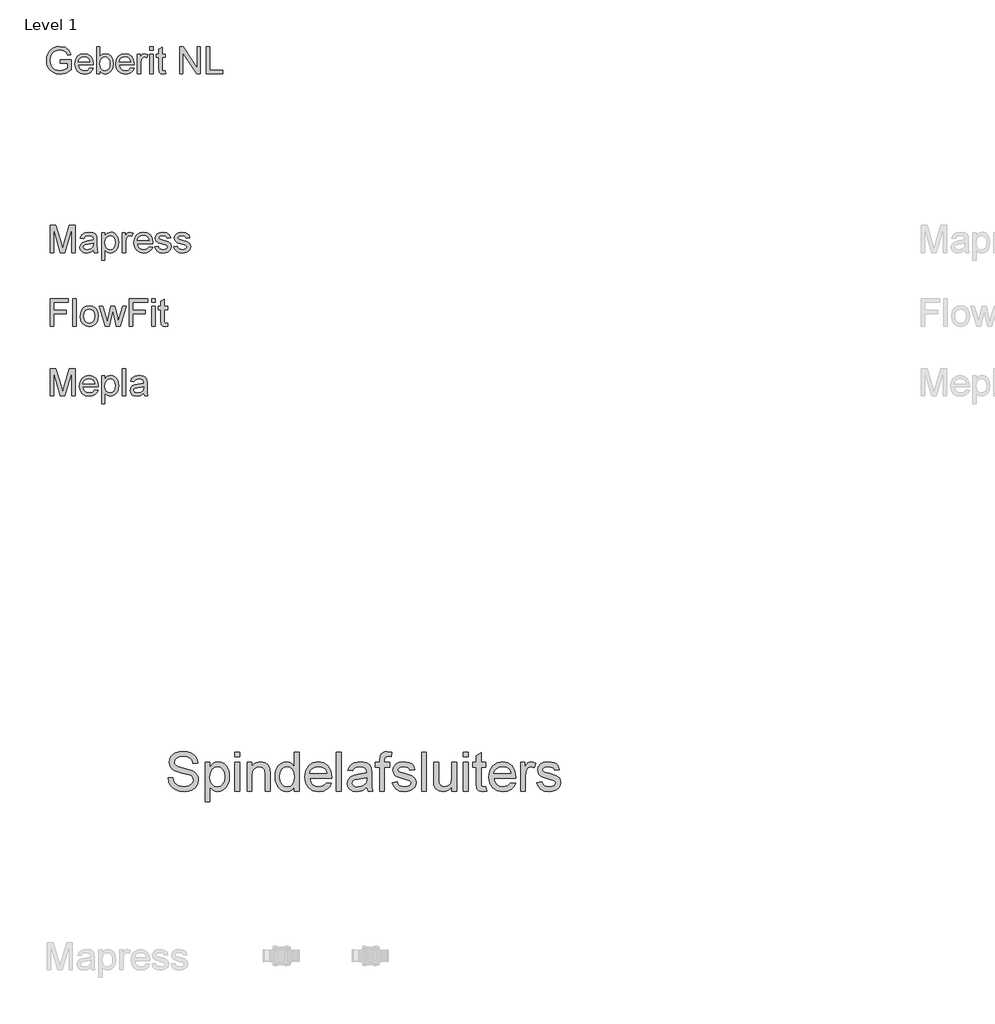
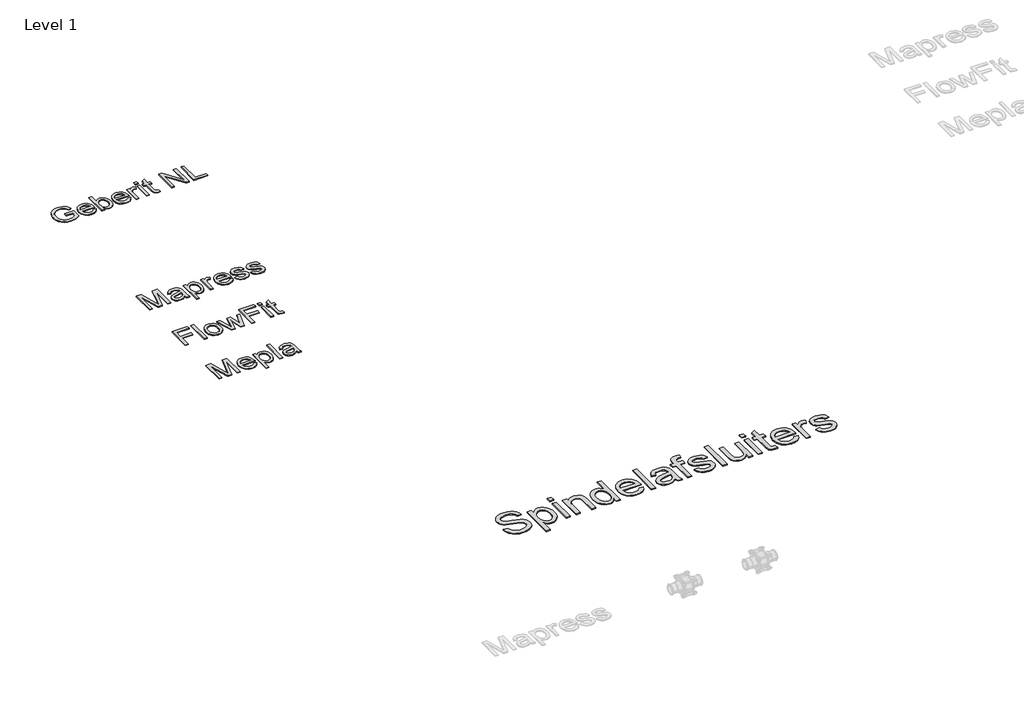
# One storey, part 2 of 4: 5 proxies.
"""IFC4 building model written with IfcOpenShell, lengths in millimetres."""

from ifc_helpers import new_model, si_unit, origin, origin_with_axes, place, context, project, spatial, polyline, outline, extrude, element, save

model = new_model("IFC4")

# Units and contexts
model_context = context("Model", 3, world=origin())
ifc_project = project(units=[si_unit("LENGTHUNIT", "METRE", prefix="MILLI")], contexts=[model_context])

# Site, building, storey
site = spatial("IfcSite", under=ifc_project)
building = spatial("IfcBuilding", under=site)
storey = spatial("IfcBuildingStorey", under=building, Name="Level 1", Elevation=0.0)

# Proxies
placement = place(None, origin())
element("IfcBuildingElementProxy", 1, Name="medium", ObjectType="medium", at=placement, inside=storey, context=model_context, shape_type="SweptSolid", body=[
    extrude(outline(polyline([(-1446.1966445, 3007.3330024), (-1421.082567, 3007.3330024), (-1412.9891631, 2982.1943994), (-1404.858971, 2973.3039179), (-1393.2216372, 2966.3018972), (-1378.9968667, 2961.7585546), (-1363.1043645, 2960.244107), (-1336.8621155, 2964.8303692), (-1319.9150183, 2977.4364589), (-1314.3477374, 2994.2854543), (-1318.5170667, 3009.9572273), (-1324.8691625, 3016.1560389), (-1335.5867913, 3021.3615692), (-1372.1542616, 3030.9510265), (-1411.5176351, 3043.336387), (-1424.0194916, 3051.7854102), (-1432.8793163, 3062.0247924), (-1438.1584229, 3073.8338044), (-1439.9181251, 3086.9917171), (-1437.74149, 3101.7008655), (-1431.2115846, 3115.4167326), (-1420.5000871, 3127.0418036), (-1405.778676, 3135.4785641), (-1388.1080775, 3140.6105179), (-1368.5490181, 3142.3211692), (-1347.3590151, 3140.5308101), (-1328.8177626, 3135.159733), (-1313.587448, 3126.3183024), (-1302.3302589, 3114.1168829), (-1295.205611, 3099.3157639), (-1292.3729196, 3082.675235), (-1317.4869971, 3082.675235), (-1322.0977848, 3097.660295), (-1331.7117676, 3108.4760256), (-1346.7336157, 3115.0243251), (-1367.5679994, 3117.2070916), (-1388.8928924, 3115.0488506), (-1403.5223331, 3108.5741275), (-1411.983619, 3099.0459838), (-1414.8040476, 3087.7274811), (-1412.8052221, 3078.0767101), (-1406.8087456, 3070.3144), (-1392.633026, 3063.373693), (-1365.8021658, 3056.2858332), (-1321.3620208, 3043.6797435), (-1307.0452798, 3034.5685328), (-1297.0572837, 3023.3236065), (-1291.1895658, 3010.0675919), (-1289.2336599, 2994.9231164), (-1291.4838714, 2979.4414158), (-1298.234506, 2964.8794202), (-1309.2096522, 2952.3469069), (-1324.1333985, 2942.9536533), (-1342.0799085, 2937.0859354), (-1362.1233459, 2935.1300295), (-1386.72852, 2937.2392196), (-1406.9804238, 2943.5667899), (-1423.1120493, 2954.1372659), (-1435.3563884, 2968.975173), (-1443.2168003, 2987.0504417), (-1446.1966445, 3007.3330024)])), origin_with_axes(), (0.0, 0.0, 1.0), 5.0),
    extrude(outline(polyline([(-1254.7018033, 2881.7626147), (-1254.7018033, 3085.8144947), (-1229.5877257, 3085.8144947), (-1229.5877257, 3061.1909265), (-1212.2236956, 3082.0130474), (-1201.5305923, 3087.2185777), (-1188.7773498, 3088.9537544), (-1171.7934643, 3086.5257332), (-1156.9432944, 3079.2416697), (-1144.8522395, 3067.5430223), (-1136.145699, 3051.8712493), (-1130.8849864, 3033.3667849), (-1129.1314156, 3013.1700634), (-1131.111847, 2991.6918862), (-1137.0531412, 2972.4823147), (-1146.7652259, 2956.5162361), (-1160.0580287, 2944.7685378), (-1175.5397293, 2937.5396566), (-1191.8185076, 2935.1300295), (-1203.3638709, 2936.7425789), (-1213.6706981, 2941.5802271), (-1229.5877257, 2957.8896623), (-1229.5877257, 2881.7626147), (-1254.7018033, 2881.7626147)]), holes=[polyline([(-1229.5877257, 3010.8646696), (-1226.8715304, 2988.3502915), (-1218.7229442, 2972.6049421), (-1206.6993343, 2963.3343158), (-1192.3580678, 2960.244107), (-1177.7838095, 2963.4446804), (-1165.4536313, 2973.0464005), (-1157.0475277, 2989.3680983), (-1154.2454931, 3012.728605), (-1156.9800826, 3035.1203558), (-1165.1838511, 3051.0864344), (-1177.1890669, 3060.6513662), (-1191.3279983, 3063.8396769), (-1205.5221119, 3060.4490311), (-1217.9871802, 3050.277094), (-1226.6875894, 3033.6426964), (-1229.5877257, 3010.8646696)])]), origin_with_axes(), (0.0, 0.0, 1.0), 5.0),
    extrude(outline(polyline([(-1100.8780784, 2938.2692892), (-1100.8780784, 3085.8144947), (-1075.7640008, 3085.8144947), (-1075.7640008, 2938.2692892), (-1100.8780784, 2938.2692892)])), origin_with_axes(), (0.0, 0.0, 1.0), 5.0),
    extrude(outline(polyline([(-1100.8780784, 3114.0678319), (-1100.8780784, 3139.1819095), (-1075.7640008, 3139.1819095), (-1075.7640008, 3114.0678319), (-1100.8780784, 3114.0678319)])), origin_with_axes(), (0.0, 0.0, 1.0), 5.0),
    extrude(outline(polyline([(-1038.0928845, 2938.2692892), (-1038.0928845, 3085.8144947), (-1012.978807, 3085.8144947), (-1012.978807, 3065.213103), (-1004.2538723, 3075.599638), (-993.7753668, 3083.0185915), (-981.5432905, 3087.4699637), (-967.5576433, 3088.9537544), (-943.8415174, 3084.1712885), (-927.6547096, 3071.6142497), (-920.1253914, 3053.1465735), (-918.8010162, 3028.8663619), (-918.8010162, 2938.2692892), (-943.9150938, 2938.2692892), (-943.9150938, 3025.4818475), (-946.8090988, 3047.70192), (-957.0362183, 3059.4496184), (-974.2776211, 3063.8396769), (-988.9867695, 3061.3748675), (-1001.5254142, 3053.9804394), (-1010.1154588, 3039.6943553), (-1012.978807, 3016.5545778), (-1012.978807, 2938.2692892), (-1038.0928845, 2938.2692892)])), origin_with_axes(), (0.0, 0.0, 1.0), 5.0),
    extrude(outline(polyline([(-793.2306285, 2938.2692892), (-793.2306285, 2961.9608897), (-800.7446183, 2950.2223883), (-809.846632, 2941.8377445), (-820.5366696, 2936.8069583), (-832.8147312, 2935.1300295), (-849.0505899, 2937.5580507), (-863.9130225, 2944.8421142), (-876.4945868, 2956.4733166), (-885.8878404, 2971.9427545), (-891.7371641, 2990.6250285), (-893.6869387, 3011.8947391), (-891.8904483, 3032.9008011), (-886.500977, 3051.8712493), (-877.5246564, 3067.7269633), (-864.9676176, 3079.3888225), (-849.7802226, 3086.5625214), (-832.9128331, 3088.9537544), (-820.6255744, 3087.2431031), (-809.7607929, 3082.1111493), (-793.2306285, 3064.3301862), (-793.2306285, 3139.1819095), (-768.116551, 3139.1819095), (-768.116551, 2938.2692892), (-793.2306285, 2938.2692892)]), holes=[polyline([(-868.5728611, 3011.992841), (-865.7401698, 2989.2761278), (-857.2420957, 2973.1199769), (-844.8935234, 2963.4630745), (-830.5093374, 2960.244107), (-816.1312827, 2963.3159217), (-804.0954101, 2972.5313657), (-795.9468239, 2988.0621172), (-793.2306285, 3010.0798546), (-795.9958749, 3034.1515999), (-804.2916139, 3050.8411797), (-816.6340548, 3060.5900526), (-831.539407, 3063.8396769), (-846.0707458, 3060.7188113), (-857.9778597, 3051.3562145), (-865.9241108, 3035.2736399), (-868.5728611, 3011.992841)])]), origin_with_axes(), (0.0, 0.0, 1.0), 5.0),
    extrude(outline(polyline([(-627.1441704, 2982.2189249), (-602.5206022, 2979.0796652), (-611.3926897, 2960.5261499), (-625.5500151, 2946.6569987), (-644.6737475, 2938.0117718), (-668.4450558, 2935.1300295), (-697.9124036, 2940.1025678), (-720.5861972, 2955.0201827), (-735.0439596, 2978.9141183), (-739.8632138, 3010.8156186), (-734.9949087, 3043.7901081), (-720.3899935, 3068.4504645), (-698.0227682, 3083.8279319), (-669.8675328, 3088.9537544), (-642.5890829, 3083.8401947), (-620.7920747, 3068.4995155), (-606.4998592, 3043.88821), (-601.7357873, 3010.9627714), (-601.8829401, 3004.1937427), (-714.7491362, 3004.1937427), (-710.4019973, 2985.3949728), (-700.3036366, 2971.5748725), (-685.7293782, 2963.0767984), (-667.9545464, 2960.244107), (-643.3309782, 2965.4925568), (-634.1829793, 2972.2983737), (-627.1441704, 2982.2189249)]), holes=[polyline([(-714.7491362, 3029.3078203), (-626.8498649, 3029.3078203), (-630.2466419, 3042.5760975), (-636.9053061, 3052.067453), (-651.5470095, 3060.8966209), (-669.9656347, 3063.8396769), (-686.8943378, 3061.4913635), (-700.8922477, 3054.4464233), (-710.6227265, 3043.4651457), (-714.7491362, 3029.3078203)])]), origin_with_axes(), (0.0, 0.0, 1.0), 5.0),
    extrude(outline(polyline([(-576.6217098, 2938.2692892), (-576.6217098, 3139.1819095), (-551.5076322, 3139.1819095), (-551.5076322, 2938.2692892), (-576.6217098, 2938.2692892)])), origin_with_axes(), (0.0, 0.0, 1.0), 5.0),
    extrude(outline(polyline([(-419.6587252, 2957.1048473), (-444.0125132, 2940.0841737), (-470.9169498, 2935.1300295), (-491.9046177, 2938.1098736), (-507.3863183, 2947.0494061), (-516.9328561, 2960.6242518), (-520.1150353, 2977.5100353), (-515.3080439, 2997.3756631), (-502.6774287, 3011.7966373), (-485.0926694, 3020.037194), (-463.3631062, 3023.8141158), (-419.805878, 3032.4470799), (-419.6587252, 3038.0388863), (-421.3877705, 3049.2470244), (-426.5749067, 3056.5801388), (-438.1754523, 3062.0247924), (-454.3377346, 3063.8396769), (-469.2982691, 3062.6317977), (-479.7461177, 3059.00816), (-486.8707657, 3052.3065763), (-491.8616981, 3041.864859), (-516.9757756, 3045.0041187), (-506.110994, 3069.5295851), (-496.8526305, 3077.7824045), (-484.2342781, 3083.9015083), (-451.100373, 3088.9537544), (-420.6642693, 3084.4901195), (-403.4719174, 3073.2819814), (-395.7709209, 3056.2367823), (-394.5446476, 3034.2619645), (-394.5446476, 3003.0165203), (-393.2693234, 2959.3857157), (-388.2661282, 2938.2692892), (-413.3802058, 2938.2692892), (-419.6587252, 2957.1048473)]), holes=[polyline([(-419.6587252, 3007.3330024), (-460.1747956, 2999.632006), (-481.7817314, 2995.5607786), (-491.5673925, 2988.9389027), (-495.0009578, 2979.2758689), (-493.130891, 2971.8078644), (-487.5206905, 2965.6887606), (-478.2929838, 2961.6052704), (-465.5703982, 2960.244107), (-452.0813917, 2961.7462918), (-440.162015, 2966.2528463), (-423.7790035, 2980.7964478), (-419.805878, 3000.2206172), (-419.6587252, 3007.3330024)])]), origin_with_axes(), (0.0, 0.0, 1.0), 5.0),
    extrude(outline(polyline([(-353.7342716, 2938.2692892), (-353.7342716, 3060.7004172), (-375.7090895, 3060.7004172), (-375.7090895, 3085.8144947), (-353.7342716, 3085.8144947), (-353.7342716, 3100.6769273), (-351.0855213, 3121.6216756), (-346.0332752, 3129.9725969), (-338.2341769, 3136.58221), (-327.3203444, 3140.8864294), (-312.9238956, 3142.3211692), (-290.0171101, 3139.5743169), (-293.69593, 3116.0298693), (-308.1659552, 3117.2070916), (-323.984881, 3113.0377624), (-327.4613658, 3107.0658113), (-328.6201941, 3097.4886167), (-328.6201941, 3085.8144947), (-300.3668569, 3085.8144947), (-300.3668569, 3060.7004172), (-328.6201941, 3060.7004172), (-328.6201941, 2938.2692892), (-353.7342716, 2938.2692892)])), origin_with_axes(), (0.0, 0.0, 1.0), 5.0),
    extrude(outline(polyline([(-287.8098181, 2982.2189249), (-262.6957406, 2985.3581846), (-258.7348777, 2974.6160303), (-251.0706695, 2966.7188301), (-239.6540649, 2961.8627878), (-224.4360131, 2960.244107), (-209.4019022, 2961.7278977), (-198.8314262, 2966.1792699), (-192.5774323, 2972.6294675), (-190.4927676, 2980.1097348), (-192.589695, 2986.5108815), (-198.8804771, 2991.3914493), (-224.7303187, 2998.5528855), (-262.5485878, 3010.8401441), (-272.119651, 3017.0144302), (-279.0542266, 3025.1875419), (-284.6705584, 3045.4455771), (-280.1578726, 3064.1585079), (-267.8460885, 3078.4568548), (-251.8800099, 3085.8880711), (-230.2730741, 3088.9537544), (-199.714343, 3084.0241357), (-188.2854757, 3078.2238629), (-180.2901736, 3070.682282), (-171.6572095, 3048.1433784), (-196.771287, 3045.0041187), (-199.9412035, 3052.9074502), (-206.2135916, 3058.8610072), (-228.3110367, 3063.8396769), (-242.732011, 3062.6501918), (-252.3459938, 3059.0817364), (-257.7538591, 3053.9313885), (-259.5564809, 3047.9962256), (-256.564374, 3040.6876366), (-247.1956458, 3035.1448812), (-225.5641845, 3029.7983296), (-188.7024086, 3017.9770548), (-171.5836331, 3004.5861502), (-166.9299258, 2994.7391754), (-165.3786901, 2982.7584851), (-167.199706, 2970.3731246), (-172.6627536, 2958.7235281), (-181.5593665, 2948.7232692), (-193.6810783, 2941.2859215), (-208.3227817, 2936.6690025), (-224.7793696, 2935.1300295), (-250.1019136, 2938.0976109), (-268.5818525, 2947.0003552), (-280.9181621, 2961.7401605), (-287.8098181, 2982.2189249)])), origin_with_axes(), (0.0, 0.0, 1.0), 5.0),
    extrude(outline(polyline([(-137.1253529, 2938.2692892), (-137.1253529, 3139.1819095), (-112.0112753, 3139.1819095), (-112.0112753, 2938.2692892), (-137.1253529, 2938.2692892)])), origin_with_axes(), (0.0, 0.0, 1.0), 5.0),
    extrude(outline(polyline([(19.8376317, 2938.2692892), (19.8376317, 2963.6286214), (10.7509465, 2951.1604874), (0.1682077, 2942.2546775), (-11.9105844, 2936.9111915), (-25.4854301, 2935.1300295), (-49.1034542, 2940.1332246), (-65.3883638, 2952.6902634), (-72.868631, 2971.182465), (-74.340159, 2994.530709), (-74.340159, 3085.8144947), (-49.2260815, 3085.8144947), (-49.2260815, 3006.3519838), (-47.7055026, 2980.7473969), (-44.0450767, 2972.2064032), (-37.7726887, 2965.713286), (-19.0597579, 2960.244107), (1.9095158, 2965.8359134), (10.2665685, 2972.4393952), (15.7664043, 2981.066228), (19.8376317, 3009.0497851), (19.8376317, 3085.8144947), (44.9517093, 3085.8144947), (44.9517093, 2938.2692892), (19.8376317, 2938.2692892)])), origin_with_axes(), (0.0, 0.0, 1.0), 5.0),
    extrude(outline(polyline([(79.4835659, 2938.2692892), (79.4835659, 3085.8144947), (104.5976434, 3085.8144947), (104.5976434, 2938.2692892), (79.4835659, 2938.2692892)])), origin_with_axes(), (0.0, 0.0, 1.0), 5.0),
    extrude(outline(polyline([(79.4835659, 3114.0678319), (79.4835659, 3139.1819095), (104.5976434, 3139.1819095), (104.5976434, 3114.0678319), (79.4835659, 3114.0678319)])), origin_with_axes(), (0.0, 0.0, 1.0), 5.0),
    extrude(outline(polyline([(195.6361745, 2959.2140374), (198.7754342, 2937.5335252), (179.988927, 2935.1300295), (158.9460768, 2939.2993588), (148.4491772, 2950.2377168), (145.4080194, 2978.7363087), (145.4080194, 3060.7004172), (126.5724613, 3060.7004172), (126.5724613, 3085.8144947), (145.4080194, 3085.8144947), (145.4080194, 3121.6707265), (170.522097, 3136.4350572), (170.522097, 3085.8144947), (195.6361745, 3085.8144947), (195.6361745, 3060.7004172), (170.522097, 3060.7004172), (170.522097, 2979.4720726), (171.8464721, 2966.5226264), (176.1384288, 2961.9363642), (184.6978165, 2960.244107), (195.6361745, 2959.2140374)])), origin_with_axes(), (0.0, 0.0, 1.0), 5.0),
    extrude(outline(polyline([(324.0515163, 2982.2189249), (348.6750845, 2979.0796652), (339.802997, 2960.5261499), (325.6456716, 2946.6569987), (306.5219392, 2938.0117718), (282.750631, 2935.1300295), (253.2832831, 2940.1025678), (230.6094895, 2955.0201827), (216.1517271, 2978.9141183), (211.332473, 3010.8156186), (216.200778, 3043.7901081), (230.8056932, 3068.4504645), (253.1729185, 3083.8279319), (281.3281539, 3088.9537544), (308.6066039, 3083.8401947), (330.4036121, 3068.4995155), (344.6958276, 3043.88821), (349.4598994, 3010.9627714), (349.3127466, 3004.1937427), (236.4465505, 3004.1937427), (240.7936894, 2985.3949728), (250.8920502, 2971.5748725), (265.4663085, 2963.0767984), (283.2411403, 2960.244107), (307.8647085, 2965.4925568), (317.0127074, 2972.2983737), (324.0515163, 2982.2189249)]), holes=[polyline([(236.4465505, 3029.3078203), (324.3458219, 3029.3078203), (320.9490448, 3042.5760975), (314.2903807, 3052.067453), (299.6486773, 3060.8966209), (281.230052, 3063.8396769), (264.3013489, 3061.4913635), (250.303439, 3054.4464233), (240.5729602, 3043.4651457), (236.4465505, 3029.3078203)])]), origin_with_axes(), (0.0, 0.0, 1.0), 5.0),
    extrude(outline(polyline([(374.573977, 2938.2692892), (374.573977, 3085.8144947), (396.5487948, 3085.8144947), (396.5487948, 3063.9868297), (412.1469914, 3084.0977121), (427.8432899, 3088.9537544), (440.3512777, 3087.0162426), (453.0554693, 3081.203707), (444.6677598, 3058.6893289), (427.009424, 3063.8396769), (412.809179, 3058.8855327), (403.7592819, 3045.1512715), (399.6880545, 3015.8188138), (399.6880545, 2938.2692892), (374.573977, 2938.2692892)])), origin_with_axes(), (0.0, 0.0, 1.0), 5.0),
    extrude(outline(polyline([(459.3339886, 2982.2189249), (484.4480662, 2985.3581846), (488.408929, 2974.6160303), (496.0731372, 2966.7188301), (507.4897418, 2961.8627878), (522.7077937, 2960.244107), (537.7419045, 2961.7278977), (548.3123805, 2966.1792699), (554.5663745, 2972.6294675), (556.6510391, 2980.1097348), (554.5541117, 2986.5108815), (548.2633296, 2991.3914493), (522.4134881, 2998.5528855), (484.595219, 3010.8401441), (475.0241557, 3017.0144302), (468.0895801, 3025.1875419), (462.4732483, 3045.4455771), (466.9859341, 3064.1585079), (479.2977182, 3078.4568548), (495.2637968, 3085.8880711), (516.8707327, 3088.9537544), (547.4294638, 3084.0241357), (558.8583311, 3078.2238629), (566.8536331, 3070.682282), (575.4865973, 3048.1433784), (550.3725197, 3045.0041187), (547.2026032, 3052.9074502), (540.9302152, 3058.8610072), (518.83277, 3063.8396769), (504.4117958, 3062.6501918), (494.797813, 3059.0817364), (489.3899476, 3053.9313885), (487.5873259, 3047.9962256), (490.5794328, 3040.6876366), (499.9481609, 3035.1448812), (521.5796222, 3029.7983296), (558.4413981, 3017.9770548), (575.5601737, 3004.5861502), (580.2138809, 2994.7391754), (581.7651166, 2982.7584851), (579.9441008, 2970.3731246), (574.4810531, 2958.7235281), (565.5844402, 2948.7232692), (553.4627285, 2941.2859215), (538.8210251, 2936.6690025), (522.3644371, 2935.1300295), (497.0418931, 2938.0976109), (478.5619543, 2947.0003552), (466.2256447, 2961.7401605), (459.3339886, 2982.2189249)])), origin_with_axes(), (0.0, 0.0, 1.0), 5.0),
])
element("IfcBuildingElementProxy", 2, Name="small", ObjectType="small", at=placement, inside=storey, context=model_context, shape_type="SweptSolid", body=[
    extrude(outline(polyline([(-2002.5257201, 6696.9325117), (-2002.5257201, 6714.1632809), (-1946.5257201, 6714.1632809), (-1946.5257201, 6662.6392425), (-1974.1723547, 6646.3844348), (-2003.4007201, 6640.9325117), (-2022.730648, 6643.0989781), (-2040.2012009, 6649.5983771), (-2054.714422, 6660.2035454), (-2065.1723547, 6674.6873194), (-2071.4950711, 6692.0611175), (-2073.6026432, 6711.3363579), (-2071.5034845, 6730.7504204), (-2065.2060086, 6748.8099156), (-2054.9710326, 6763.9583531), (-2041.0593739, 6774.6392425), (-2024.1146624, 6780.974579), (-2004.7805278, 6783.0863579), (-1977.823797, 6778.1897233), (-1958.9271624, 6764.5599156), (-1948.511297, 6741.7594348), (-1964.3959124, 6737.2834733), (-1972.2540855, 6753.2185694), (-1985.6819701, 6762.4060694), (-2005.0497586, 6765.8555886), (-2027.1098547, 6762.1368386), (-2042.1194701, 6752.3772233), (-2050.9872586, 6739.1007809), (-2056.3718739, 6712.0430886), (-2054.7522826, 6695.5653242), (-2049.8935086, 6682.0070309), (-2041.9427874, 6671.4649636), (-2031.0473547, 6664.0358771), (-2004.7805278, 6658.1632809), (-1981.2060086, 6662.5887617), (-1963.7564893, 6672.0286656), (-1963.7564893, 6696.9325117), (-2002.5257201, 6696.9325117)])), origin_with_axes(), (0.0, 0.0, 1.0), 5.0),
    extrude(outline(polyline([(-1849.8045662, 6673.240204), (-1832.9103355, 6671.0863579), (-1838.9974749, 6658.3567906), (-1848.7108162, 6648.8411656), (-1861.8316095, 6642.9096752), (-1878.1411047, 6640.9325117), (-1898.3586528, 6644.3441704), (-1913.9151432, 6654.5791463), (-1923.8346143, 6670.9727761), (-1927.1411047, 6692.8603963), (-1923.8009605, 6715.4841944), (-1913.7805278, 6732.4036656), (-1898.4343739, 6742.9541463), (-1879.1170662, 6746.4709733), (-1860.4013211, 6742.9625598), (-1845.4463932, 6732.4373194), (-1835.6405037, 6715.5515021), (-1832.3718739, 6692.9613579), (-1832.4728355, 6688.3171271), (-1909.9103355, 6688.3171271), (-1906.9277634, 6675.4192906), (-1899.9992778, 6665.9373194), (-1889.9998787, 6660.1067906), (-1877.8045662, 6658.1632809), (-1860.9103355, 6661.7642425), (-1849.8045662, 6673.240204)]), holes=[polyline([(-1909.9103355, 6705.5478963), (-1849.6026432, 6705.5478963), (-1856.5016816, 6721.1632809), (-1866.5473547, 6727.2209733), (-1879.1843739, 6729.240204), (-1890.7991576, 6727.6290261), (-1900.4031239, 6722.7954925), (-1907.0792057, 6715.2612377), (-1909.9103355, 6705.5478963)])]), origin_with_axes(), (0.0, 0.0, 1.0), 5.0),
    extrude(outline(polyline([(-1797.9103355, 6643.0863579), (-1815.1411047, 6643.0863579), (-1815.1411047, 6780.9325117), (-1797.9103355, 6780.9325117), (-1797.9103355, 6729.8123194), (-1785.8454316, 6742.3063098), (-1770.8526432, 6746.4709733), (-1753.5882201, 6742.7185694), (-1740.1939893, 6732.1680886), (-1731.9656239, 6715.7618386), (-1728.9872586, 6695.2161656), (-1732.0707922, 6672.2137617), (-1741.3213932, 6655.1007809), (-1754.8965134, 6644.474579), (-1770.9536047, 6640.9325117), (-1786.2745182, 6645.5010213), (-1797.9103355, 6659.2065502), (-1797.9103355, 6643.0863579)]), holes=[polyline([(-1797.9103355, 6694.4084733), (-1796.7324509, 6680.0382809), (-1793.198797, 6670.3123194), (-1784.1711528, 6661.2005406), (-1772.4343739, 6658.1632809), (-1762.4896624, 6660.4012617), (-1753.9920662, 6667.115204), (-1748.1615374, 6678.2630406), (-1746.2180278, 6693.802704), (-1748.0816095, 6709.5695309), (-1753.6723547, 6720.5911656), (-1761.9049268, 6727.0779444), (-1771.6939893, 6729.240204), (-1781.6387009, 6727.0022233), (-1790.136297, 6720.2882809), (-1795.9668259, 6709.3423675), (-1797.9103355, 6694.4084733)])]), origin_with_axes(), (0.0, 0.0, 1.0), 5.0),
    extrude(outline(polyline([(-1638.7276432, 6673.240204), (-1621.8334124, 6671.0863579), (-1627.9205518, 6658.3567906), (-1637.6338932, 6648.8411656), (-1650.7546864, 6642.9096752), (-1667.0641816, 6640.9325117), (-1687.2817297, 6644.3441704), (-1702.8382201, 6654.5791463), (-1712.7576912, 6670.9727761), (-1716.0641816, 6692.8603963), (-1712.7240374, 6715.4841944), (-1702.7036047, 6732.4036656), (-1687.3574509, 6742.9541463), (-1668.0401432, 6746.4709733), (-1649.324398, 6742.9625598), (-1634.3694701, 6732.4373194), (-1624.5635807, 6715.5515021), (-1621.2949509, 6692.9613579), (-1621.3959124, 6688.3171271), (-1698.8334124, 6688.3171271), (-1695.8508403, 6675.4192906), (-1688.9223547, 6665.9373194), (-1678.9229557, 6660.1067906), (-1666.7276432, 6658.1632809), (-1649.8334124, 6661.7642425), (-1638.7276432, 6673.240204)]), holes=[polyline([(-1698.8334124, 6705.5478963), (-1638.5257201, 6705.5478963), (-1645.4247586, 6721.1632809), (-1655.4704316, 6727.2209733), (-1668.1074509, 6729.240204), (-1679.7222345, 6727.6290261), (-1689.3262009, 6722.7954925), (-1696.0022826, 6715.2612377), (-1698.8334124, 6705.5478963)])]), origin_with_axes(), (0.0, 0.0, 1.0), 5.0),
    extrude(outline(polyline([(-1604.0641816, 6643.0863579), (-1604.0641816, 6744.3171271), (-1588.9872586, 6744.3171271), (-1588.9872586, 6729.3411656), (-1578.2853355, 6743.1392425), (-1567.5161047, 6746.4709733), (-1550.2180278, 6741.1536656), (-1555.9728355, 6725.7065502), (-1568.0882201, 6729.240204), (-1577.8310086, 6725.8411656), (-1584.0401432, 6716.4180886), (-1586.8334124, 6696.2930886), (-1586.8334124, 6643.0863579), (-1604.0641816, 6643.0863579)])), origin_with_axes(), (0.0, 0.0, 1.0), 5.0),
    extrude(outline(polyline([(-1539.448797, 6643.0863579), (-1539.448797, 6744.3171271), (-1522.2180278, 6744.3171271), (-1522.2180278, 6643.0863579), (-1539.448797, 6643.0863579)])), origin_with_axes(), (0.0, 0.0, 1.0), 5.0),
    extrude(outline(polyline([(-1539.448797, 6763.7017425), (-1539.448797, 6780.9325117), (-1522.2180278, 6780.9325117), (-1522.2180278, 6763.7017425), (-1539.448797, 6763.7017425)])), origin_with_axes(), (0.0, 0.0, 1.0), 5.0),
    extrude(outline(polyline([(-1459.7564893, 6657.4565502), (-1457.6026432, 6642.5815502), (-1470.4920662, 6640.9325117), (-1484.9295662, 6643.7930886), (-1492.1314893, 6651.2978963), (-1494.2180278, 6670.8507809), (-1494.2180278, 6727.0863579), (-1507.1411047, 6727.0863579), (-1507.1411047, 6744.3171271), (-1494.2180278, 6744.3171271), (-1494.2180278, 6768.9180886), (-1476.9872586, 6779.0478963), (-1476.9872586, 6744.3171271), (-1459.7564893, 6744.3171271), (-1459.7564893, 6727.0863579), (-1476.9872586, 6727.0863579), (-1476.9872586, 6671.3555886), (-1476.0786047, 6662.4709733), (-1473.1338932, 6659.3243386), (-1467.261297, 6658.1632809), (-1459.7564893, 6657.4565502)])), origin_with_axes(), (0.0, 0.0, 1.0), 5.0),
    extrude(outline(polyline([(-1386.5257201, 6643.0863579), (-1386.5257201, 6780.9325117), (-1368.0834124, 6780.9325117), (-1296.0641816, 6671.7257809), (-1296.0641816, 6780.9325117), (-1278.8334124, 6780.9325117), (-1278.8334124, 6643.0863579), (-1297.2757201, 6643.0863579), (-1369.2949509, 6752.3267425), (-1369.2949509, 6643.0863579), (-1386.5257201, 6643.0863579)])), origin_with_axes(), (0.0, 0.0, 1.0), 5.0),
    extrude(outline(polyline([(-1248.6795662, 6643.0863579), (-1248.6795662, 6780.9325117), (-1231.448797, 6780.9325117), (-1231.448797, 6660.3171271), (-1162.5257201, 6660.3171271), (-1162.5257201, 6643.0863579), (-1248.6795662, 6643.0863579)])), origin_with_axes(), (0.0, 0.0, 1.0), 5.0),
])
element("IfcBuildingElementProxy", 3, Name="small", ObjectType="small", at=placement, inside=storey, context=model_context, shape_type="SweptSolid", body=[
    extrude(outline(polyline([(-2055.2064463, 5718.9619491), (-2055.2064463, 5859.6007833), (-2024.9567361, 5859.6007833), (-1996.183459, 5760.4737534), (-1990.3807336, 5739.7693547), (-1984.0973091, 5762.1905361), (-1955.8047312, 5859.6007833), (-1925.555021, 5859.6007833), (-1925.555021, 5718.9619491), (-1943.1348752, 5718.9619491), (-1943.1348752, 5842.020929), (-1978.4662621, 5718.9619491), (-2002.2952052, 5718.9619491), (-2037.626592, 5842.020929), (-2037.626592, 5718.9619491), (-2055.2064463, 5718.9619491)])), origin_with_axes(), (0.0, 0.0, 1.0), 5.0),
    extrude(outline(polyline([(-1831.0633042, 5732.1468398), (-1848.1109559, 5720.2323682), (-1866.9440615, 5716.7644673), (-1881.635429, 5718.8503582), (-1892.4726194, 5725.1080309), (-1899.1551959, 5734.6104229), (-1901.3827213, 5746.4304714), (-1898.0178274, 5760.3364108), (-1889.1763967, 5770.4310927), (-1876.8670652, 5776.1994824), (-1861.656371, 5778.8433277), (-1831.1663112, 5784.8864026), (-1831.0633042, 5788.800667), (-1832.273636, 5796.6463637), (-1835.9046313, 5801.7795438), (-1844.0250132, 5805.5908013), (-1855.3386108, 5806.8612205), (-1873.124479, 5803.4791586), (-1881.6053853, 5791.478848), (-1899.1852396, 5793.6763297), (-1891.5798924, 5810.8441562), (-1876.2661913, 5820.9045025), (-1853.0724577, 5824.4410747), (-1831.7671851, 5821.3165303), (-1819.7325388, 5813.4708336), (-1814.3418413, 5801.5391943), (-1813.48345, 5786.1568218), (-1813.48345, 5764.2850109), (-1812.590723, 5733.7434476), (-1809.0884864, 5718.9619491), (-1826.6683407, 5718.9619491), (-1831.0633042, 5732.1468398)]), holes=[polyline([(-1831.0633042, 5767.3065483), (-1859.4245535, 5761.9158508), (-1874.5494086, 5759.0659916), (-1881.3993714, 5754.4306785), (-1883.8028671, 5747.6665549), (-1878.56668, 5738.155579), (-1863.2014753, 5734.3443216), (-1845.4156071, 5738.550439), (-1833.9474991, 5748.7309601), (-1831.1663112, 5762.3278787), (-1831.0633042, 5767.3065483)])]), origin_with_axes(), (0.0, 0.0, 1.0), 5.0),
    extrude(outline(polyline([(-1789.3111503, 5679.407277), (-1789.3111503, 5822.2435929), (-1771.7312961, 5822.2435929), (-1771.7312961, 5805.0070952), (-1759.5764749, 5819.5825798), (-1743.1640329, 5824.4410747), (-1731.275313, 5822.7414599), (-1720.8801941, 5817.6426155), (-1712.4164557, 5809.4535622), (-1706.3218773, 5798.4833211), (-1701.4118789, 5771.392491), (-1706.9570869, 5742.911067), (-1713.7555462, 5731.7348119), (-1723.0605081, 5723.5114231), (-1733.8976985, 5718.4512062), (-1745.2928433, 5716.7644673), (-1760.5893767, 5721.2796056), (-1771.7312961, 5732.6962102), (-1771.7312961, 5679.407277), (-1789.3111503, 5679.407277)]), holes=[polyline([(-1771.7312961, 5769.7787153), (-1769.8299593, 5754.0186507), (-1764.1259489, 5742.9969061), (-1755.709422, 5736.5074677), (-1745.6705355, 5734.3443216), (-1735.4685547, 5736.5847229), (-1726.8374299, 5743.305927), (-1720.9531574, 5754.7311155), (-1718.9917332, 5771.0834701), (-1720.9059459, 5786.7576957), (-1726.6485838, 5797.9339507), (-1735.0522349, 5804.629403), (-1744.9494868, 5806.8612205), (-1754.8853664, 5804.4877684), (-1763.6109141, 5797.3674124), (-1769.7012006, 5785.7233341), (-1771.7312961, 5769.7787153)])]), origin_with_axes(), (0.0, 0.0, 1.0), 5.0),
    extrude(outline(polyline([(-1681.6345429, 5718.9619491), (-1681.6345429, 5822.2435929), (-1666.2521704, 5822.2435929), (-1666.2521704, 5806.9642274), (-1655.3334328, 5821.0418451), (-1644.3460239, 5824.4410747), (-1626.6974983, 5819.0160416), (-1632.5688949, 5803.2559769), (-1644.92973, 5806.8612205), (-1654.8699015, 5803.3933195), (-1661.2048294, 5793.7793367), (-1664.0546886, 5773.2466163), (-1664.0546886, 5718.9619491), (-1681.6345429, 5718.9619491)])), origin_with_axes(), (0.0, 0.0, 1.0), 5.0),
    extrude(outline(polyline([(-1543.3992044, 5749.7266941), (-1526.1627066, 5747.5292123), (-1532.3731678, 5734.5417516), (-1542.2832957, 5724.8333457), (-1555.6699083, 5718.7816869), (-1572.3098241, 5716.7644673), (-1592.9369676, 5720.2452441), (-1608.8086231, 5730.6875745), (-1618.9290568, 5747.4133294), (-1622.3025347, 5769.7443797), (-1618.8947212, 5792.8265223), (-1608.6712805, 5810.0887718), (-1593.0142228, 5820.852999), (-1573.305558, 5824.4410747), (-1554.2106431, 5820.8615829), (-1538.9527373, 5810.1231075), (-1528.9481865, 5792.8951936), (-1525.6133362, 5769.8473866), (-1525.7163431, 5765.1090665), (-1604.7226804, 5765.1090665), (-1601.6796832, 5751.9499276), (-1594.6108307, 5742.2758574), (-1584.4088498, 5736.3272055), (-1571.9664676, 5734.3443216), (-1554.7299698, 5738.0182364), (-1543.3992044, 5749.7266941)]), holes=[polyline([(-1604.7226804, 5782.6889208), (-1543.1931905, 5782.6889208), (-1550.2319993, 5798.6206638), (-1560.4811917, 5804.8010813), (-1573.3742293, 5806.8612205), (-1585.2243215, 5805.2174011), (-1595.0228585, 5800.2859429), (-1601.8341936, 5792.5990486), (-1604.7226804, 5782.6889208)])]), origin_with_axes(), (0.0, 0.0, 1.0), 5.0),
    extrude(outline(polyline([(-1514.6259273, 5749.7266941), (-1497.046073, 5751.9241758), (-1494.273469, 5744.4046679), (-1488.9085233, 5738.8766277), (-1470.2642637, 5734.3443216), (-1452.3410529, 5738.4989356), (-1446.5039919, 5748.250261), (-1452.3753886, 5756.1474611), (-1470.4702777, 5761.1604665), (-1496.943066, 5769.7615475), (-1508.4970132, 5779.804726), (-1512.4284455, 5793.9853506), (-1509.2695654, 5807.0844022), (-1500.6513165, 5817.093245), (-1489.4750615, 5822.2950964), (-1474.3502064, 5824.4410747), (-1452.9590947, 5820.9903416), (-1439.3621761, 5811.651044), (-1433.3191012, 5795.8738115), (-1450.8989555, 5793.6763297), (-1457.5085687, 5803.3761517), (-1472.9767803, 5806.8612205), (-1489.8012502, 5803.5306621), (-1494.8485912, 5795.7708046), (-1492.7541164, 5790.6547923), (-1486.1960067, 5786.7748635), (-1471.0539838, 5783.0322774), (-1445.2507406, 5774.757385), (-1433.2675978, 5765.3837518), (-1428.9241377, 5750.1043862), (-1434.0229821, 5733.2799163), (-1448.7358094, 5721.0735917), (-1470.5046133, 5716.7644673), (-1488.2303941, 5718.8417743), (-1501.1663513, 5725.0736953), (-1509.801768, 5735.391559), (-1514.6259273, 5749.7266941)])), origin_with_axes(), (0.0, 0.0, 1.0), 5.0),
    extrude(outline(polyline([(-1415.739247, 5749.7266941), (-1398.1593927, 5751.9241758), (-1395.3867887, 5744.4046679), (-1390.021843, 5738.8766277), (-1371.3775834, 5734.3443216), (-1353.4543726, 5738.4989356), (-1347.6173116, 5748.250261), (-1353.4887083, 5756.1474611), (-1371.5835974, 5761.1604665), (-1398.0563857, 5769.7615475), (-1409.6103329, 5779.804726), (-1413.5417652, 5793.9853506), (-1410.3828851, 5807.0844022), (-1401.7646362, 5817.093245), (-1390.5883812, 5822.2950964), (-1375.4635261, 5824.4410747), (-1354.0724144, 5820.9903416), (-1340.4754958, 5811.651044), (-1334.4324209, 5795.8738115), (-1352.0122752, 5793.6763297), (-1358.6218884, 5803.3761517), (-1374.0901, 5806.8612205), (-1390.9145699, 5803.5306621), (-1395.9619109, 5795.7708046), (-1393.8674361, 5790.6547923), (-1387.3093264, 5786.7748635), (-1372.1673035, 5783.0322774), (-1346.3640603, 5774.757385), (-1334.3809175, 5765.3837518), (-1330.0374574, 5750.1043862), (-1335.1363018, 5733.2799163), (-1349.8491291, 5721.0735917), (-1371.617933, 5716.7644673), (-1389.3437138, 5718.8417743), (-1402.279671, 5725.0736953), (-1410.9150877, 5735.391559), (-1415.739247, 5749.7266941)])), origin_with_axes(), (0.0, 0.0, 1.0), 5.0),
])
element("IfcBuildingElementProxy", 4, Name="small", ObjectType="small", at=placement, inside=storey, context=model_context, shape_type="SweptSolid", body=[
    extrude(outline(polyline([(-2055.2064463, 5338.9619491), (-2055.2064463, 5479.6007833), (-1960.7147295, 5479.6007833), (-1960.7147295, 5462.020929), (-2037.626592, 5462.020929), (-2037.626592, 5420.2687751), (-1971.7021384, 5420.2687751), (-1971.7021384, 5402.6889208), (-2037.626592, 5402.6889208), (-2037.626592, 5338.9619491), (-2055.2064463, 5338.9619491)])), origin_with_axes(), (0.0, 0.0, 1.0), 5.0),
    extrude(outline(polyline([(-1938.7399117, 5338.9619491), (-1938.7399117, 5479.6007833), (-1921.1600574, 5479.6007833), (-1921.1600574, 5338.9619491), (-1938.7399117, 5338.9619491)])), origin_with_axes(), (0.0, 0.0, 1.0), 5.0),
    extrude(outline(polyline([(-1899.1852396, 5390.602771), (-1895.382566, 5415.5047033), (-1883.9745453, 5433.0073023), (-1869.8797598, 5441.5826316), (-1853.0037864, 5444.4410747), (-1834.5354971, 5440.9602979), (-1819.7840423, 5430.5179675), (-1810.114264, 5413.9381391), (-1806.8910046, 5392.0448684), (-1808.3159342, 5374.284752), (-1812.590723, 5360.7650887), (-1819.5909042, 5350.640363), (-1829.1920112, 5343.0650596), (-1840.5957399, 5338.3396154), (-1853.0037864, 5336.7644673), (-1871.6952575, 5340.2323682), (-1886.4295445, 5350.6360711), (-1895.9963158, 5367.5635479), (-1899.1852396, 5390.602771)]), holes=[polyline([(-1881.6053853, 5390.6371067), (-1879.5709978, 5374.7268235), (-1873.4678355, 5363.3917661), (-1864.2830484, 5356.6061827), (-1853.0037864, 5354.3443216), (-1841.7760279, 5356.6190586), (-1832.6084086, 5363.4432696), (-1826.5052463, 5374.9285455), (-1824.4708589, 5391.1864771), (-1826.5181222, 5406.6332289), (-1832.6599121, 5417.8137759), (-1841.8404073, 5424.5993593), (-1853.0037864, 5426.8612205), (-1864.2830484, 5424.6079432), (-1873.4678355, 5417.8481116), (-1879.5709978, 5406.5388059), (-1881.6053853, 5390.6371067)])]), origin_with_axes(), (0.0, 0.0, 1.0), 5.0),
    extrude(outline(polyline([(-1769.9801778, 5338.9619491), (-1801.3973001, 5442.2435929), (-1783.1307328, 5442.2435929), (-1765.310529, 5381.9845221), (-1759.9885028, 5360.4560678), (-1755.6278749, 5381.1948021), (-1741.4472502, 5442.2435929), (-1720.502502, 5442.2435929), (-1706.3905486, 5381.3664804), (-1702.5106198, 5362.5848783), (-1696.9482441, 5382.39655), (-1679.0937046, 5442.2435929), (-1660.7584659, 5442.2435929), (-1692.4159379, 5338.9619491), (-1713.669707, 5338.9619491), (-1727.1636186, 5399.5300408), (-1731.077883, 5418.4146498), (-1748.4860591, 5338.9619491), (-1769.9801778, 5338.9619491)])), origin_with_axes(), (0.0, 0.0, 1.0), 5.0),
    extrude(outline(polyline([(-1646.4748343, 5338.9619491), (-1646.4748343, 5479.6007833), (-1551.9831176, 5479.6007833), (-1551.9831176, 5462.020929), (-1628.8949801, 5462.020929), (-1628.8949801, 5420.2687751), (-1562.9705265, 5420.2687751), (-1562.9705265, 5402.6889208), (-1628.8949801, 5402.6889208), (-1628.8949801, 5338.9619491), (-1646.4748343, 5338.9619491)])), origin_with_axes(), (0.0, 0.0, 1.0), 5.0),
    extrude(outline(polyline([(-1530.0082998, 5462.020929), (-1530.0082998, 5479.6007833), (-1512.4284455, 5479.6007833), (-1512.4284455, 5462.020929), (-1530.0082998, 5462.020929)])), origin_with_axes(), (0.0, 0.0, 1.0), 5.0),
    extrude(outline(polyline([(-1530.0082998, 5338.9619491), (-1530.0082998, 5442.2435929), (-1512.4284455, 5442.2435929), (-1512.4284455, 5338.9619491), (-1530.0082998, 5338.9619491)])), origin_with_axes(), (0.0, 0.0, 1.0), 5.0),
    extrude(outline(polyline([(-1448.7014737, 5353.6232729), (-1446.5039919, 5338.4469143), (-1459.654547, 5336.7644673), (-1474.3845421, 5339.6829978), (-1481.7323718, 5347.3398484), (-1483.8611823, 5367.2888627), (-1483.8611823, 5424.6637387), (-1497.046073, 5424.6637387), (-1497.046073, 5442.2435929), (-1483.8611823, 5442.2435929), (-1483.8611823, 5467.3429552), (-1466.281328, 5477.6779867), (-1466.281328, 5442.2435929), (-1448.7014737, 5442.2435929), (-1448.7014737, 5424.6637387), (-1466.281328, 5424.6637387), (-1466.281328, 5367.8038975), (-1465.3542654, 5358.7392851), (-1462.3498957, 5355.5289016), (-1456.3583243, 5354.3443216), (-1448.7014737, 5353.6232729)])), origin_with_axes(), (0.0, 0.0, 1.0), 5.0),
])
element("IfcBuildingElementProxy", 5, Name="small", ObjectType="small", at=placement, inside=storey, context=model_context, shape_type="SweptSolid", body=[
    extrude(outline(polyline([(-2055.2064463, 4978.9619491), (-2055.2064463, 5119.6007833), (-2024.9567361, 5119.6007833), (-1996.183459, 5020.4737534), (-1990.3807336, 4999.7693547), (-1984.0973091, 5022.1905361), (-1955.8047312, 5119.6007833), (-1925.555021, 5119.6007833), (-1925.555021, 4978.9619491), (-1943.1348752, 4978.9619491), (-1943.1348752, 5102.020929), (-1978.4662621, 4978.9619491), (-2002.2952052, 4978.9619491), (-2037.626592, 5102.020929), (-2037.626592, 4978.9619491), (-2055.2064463, 4978.9619491)])), origin_with_axes(), (0.0, 0.0, 1.0), 5.0),
    extrude(outline(polyline([(-1824.6768728, 5009.7266941), (-1807.4403751, 5007.5292123), (-1813.6508363, 4994.5417516), (-1823.5609641, 4984.8333457), (-1836.9475767, 4978.7816869), (-1853.5874925, 4976.7644673), (-1874.214636, 4980.2452441), (-1890.0862915, 4990.6875745), (-1900.2067252, 5007.4133294), (-1903.5802031, 5029.7443797), (-1900.1723896, 5052.8265223), (-1889.9489489, 5070.0887718), (-1874.2918912, 5080.852999), (-1854.5832265, 5084.4410747), (-1835.4883115, 5080.8615829), (-1820.2304058, 5070.1231075), (-1810.2258549, 5052.8951936), (-1806.8910046, 5029.8473866), (-1806.9940116, 5025.1090665), (-1886.0003488, 5025.1090665), (-1882.9573516, 5011.9499276), (-1875.8884991, 5002.2758574), (-1865.6865182, 4996.3272055), (-1853.244136, 4994.3443216), (-1836.0076383, 4998.0182364), (-1824.6768728, 5009.7266941)]), holes=[polyline([(-1886.0003488, 5042.6889208), (-1824.4708589, 5042.6889208), (-1831.5096677, 5058.6206638), (-1841.7588601, 5064.8010813), (-1854.6518978, 5066.8612205), (-1866.50199, 5065.2174011), (-1876.3005269, 5060.2859429), (-1883.111862, 5052.5990486), (-1886.0003488, 5042.6889208)])]), origin_with_axes(), (0.0, 0.0, 1.0), 5.0),
    extrude(outline(polyline([(-1789.3111503, 4939.407277), (-1789.3111503, 5082.2435929), (-1771.7312961, 5082.2435929), (-1771.7312961, 5065.0070952), (-1759.5764749, 5079.5825798), (-1743.1640329, 5084.4410747), (-1731.275313, 5082.7414599), (-1720.8801941, 5077.6426155), (-1712.4164557, 5069.4535622), (-1706.3218773, 5058.4833211), (-1701.4118789, 5031.392491), (-1706.9570869, 5002.911067), (-1713.7555462, 4991.7348119), (-1723.0605081, 4983.5114231), (-1733.8976985, 4978.4512062), (-1745.2928433, 4976.7644673), (-1760.5893767, 4981.2796056), (-1771.7312961, 4992.6962102), (-1771.7312961, 4939.407277), (-1789.3111503, 4939.407277)]), holes=[polyline([(-1771.7312961, 5029.7787153), (-1769.8299593, 5014.0186507), (-1764.1259489, 5002.9969061), (-1755.709422, 4996.5074677), (-1745.6705355, 4994.3443216), (-1735.4685547, 4996.5847229), (-1726.8374299, 5003.305927), (-1720.9531574, 5014.7311155), (-1718.9917332, 5031.0834701), (-1720.9059459, 5046.7576957), (-1726.6485838, 5057.9339507), (-1735.0522349, 5064.629403), (-1744.9494868, 5066.8612205), (-1754.8853664, 5064.4877684), (-1763.6109141, 5057.3674124), (-1769.7012006, 5045.7233341), (-1771.7312961, 5029.7787153)])]), origin_with_axes(), (0.0, 0.0, 1.0), 5.0),
    extrude(outline(polyline([(-1681.6345429, 4978.9619491), (-1681.6345429, 5119.6007833), (-1664.0546886, 5119.6007833), (-1664.0546886, 4978.9619491), (-1681.6345429, 4978.9619491)])), origin_with_axes(), (0.0, 0.0, 1.0), 5.0),
    extrude(outline(polyline([(-1571.7604537, 4992.1468398), (-1588.8081053, 4980.2323682), (-1607.6412109, 4976.7644673), (-1622.3325784, 4978.8503582), (-1633.1697688, 4985.1080309), (-1639.8523453, 4994.6104229), (-1642.0798708, 5006.4304714), (-1638.7149768, 5020.3364108), (-1629.8735462, 5030.4310927), (-1617.5642146, 5036.1994824), (-1602.3535204, 5038.8433277), (-1571.8634606, 5044.8864026), (-1571.7604537, 5048.800667), (-1572.9707854, 5056.6463637), (-1576.6017807, 5061.7795438), (-1584.7221626, 5065.5908013), (-1596.0357603, 5066.8612205), (-1613.8216284, 5063.4791586), (-1622.3025347, 5051.478848), (-1639.882389, 5053.6763297), (-1632.2770419, 5070.8441562), (-1616.9633407, 5080.9045025), (-1593.7696072, 5084.4410747), (-1572.4643345, 5081.3165303), (-1560.4296882, 5073.4708336), (-1555.0389907, 5061.5391943), (-1554.1805994, 5046.1568218), (-1554.1805994, 5024.2850109), (-1553.2878724, 4993.7434476), (-1549.7856358, 4978.9619491), (-1567.3654901, 4978.9619491), (-1571.7604537, 4992.1468398)]), holes=[polyline([(-1571.7604537, 5027.3065483), (-1600.1217029, 5021.9158508), (-1615.246558, 5019.0659916), (-1622.0965208, 5014.4306785), (-1624.5000165, 5007.6665549), (-1619.2638294, 4998.155579), (-1603.8986248, 4994.3443216), (-1586.1127566, 4998.550439), (-1574.6446485, 5008.7309601), (-1571.8634606, 5022.3278787), (-1571.7604537, 5027.3065483)])]), origin_with_axes(), (0.0, 0.0, 1.0), 5.0),
])

save(model, "model.ifc")
